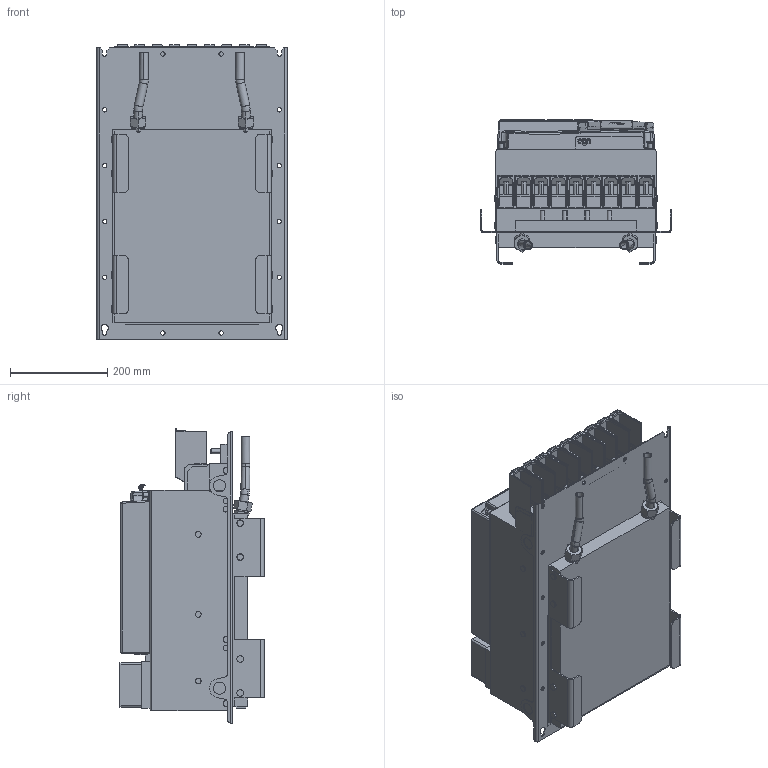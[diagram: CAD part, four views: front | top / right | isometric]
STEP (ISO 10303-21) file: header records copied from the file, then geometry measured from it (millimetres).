
FILE_DESCRIPTION (( 'STEP AP214' ), '1' );
FILE_NAME ('F6-7 TK5-P150.STEP', '2023-11-20T10:11:24', ( '' ), ( '' ), 'SwSTEP 2.0', 'SolidWorks 2022', '' );
FILE_SCHEMA (( 'AUTOMOTIVE_DESIGN' ));
Length unit declared in the file: millimetre
Products named in the file (13): 10061502_000_Deckel (Kundenmodell); Kundenmodell^10061502_000; 10078335_000_Leistungsteil F6-7 TW5 (Kundenmodell); 10059764_000_Blindabdeckung (Kundenmodell); Kundenmodell^10045475_000_Gehäusebaugruppe ohne Lüfterkarte; Kundenmodell^10051076_000_Kundenmodell mit Geberbuchsen; Kundenmodell^10043622_000; 10043622_000_70F6 Klemme (Kundenmodell); F6-7 TK5-P150; 10051076_000_Kundenmodell; Kundenmodell ohne Zubehör^10078335_000; 10045475_000_Gehäusebaugruppe F6-7 (Kundenmodell); Kundenmodell^10059764_000
Assembly tree (12 placements, depth 4):
  F6-7 TK5-P150
    10078335_000_Leistungsteil F6-7 TW5 (Kundenmodell)
      10043622_000_70F6 Klemme (Kundenmodell)
        Kundenmodell^10043622_000
      Kundenmodell ohne Zubehör^10078335_000
    10045475_000_Gehäusebaugruppe F6-7 (Kundenmodell)
      10061502_000_Deckel (Kundenmodell)
        Kundenmodell^10061502_000
      Kundenmodell^10045475_000_Gehäusebaugruppe ohne Lüfterkarte
    10051076_000_Kundenmodell
      10059764_000_Blindabdeckung (Kundenmodell)
        Kundenmodell^10059764_000
      Kundenmodell^10051076_000_Kundenmodell mit Geberbuchsen
Bounding box: 392 x 296.9 x 606.26 mm (x, y, z)
Volume: 41129521.7 mm3; surface area: 2137443.2 mm2
Topology: 12 solids, 14 shells, 3238 faces, 8320 edges, 5116 vertices
Faces by surface type: plane 1597, cylinder 978, bspline 281, sphere 172, cone 121, torus 89
Entity records: 104874 total; most frequent: CARTESIAN_POINT 28377, ORIENTED_EDGE 16420, DIRECTION 15087, EDGE_CURVE 8210, VERTEX_POINT 5113, VECTOR 5095, LINE 5095, AXIS2_PLACEMENT_3D 4996
